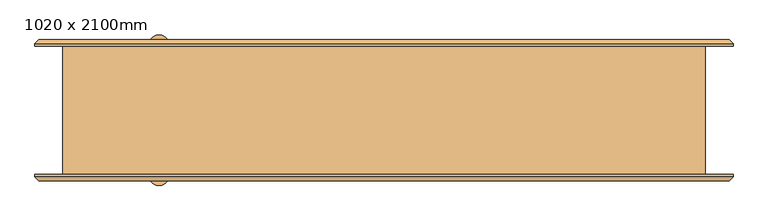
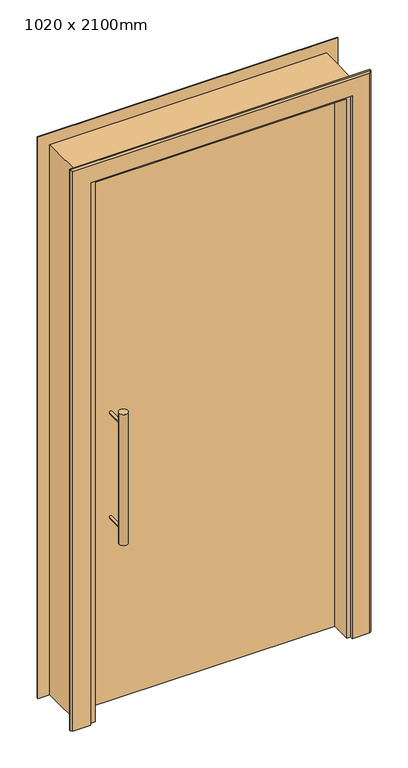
"""IFC4 building model written with IfcOpenShell, lengths in millimetres: door geometry, Porta pivotante simples com revestimento : 1020 x 2100mm."""

from ifc_helpers import new_model, si_unit, point, frame, frame_2d, origin, origin_with_axes, place, context, project, spatial, polyline, circle_curve, trimmed, segment, composite_curve, outline, extrude, faceted_brep, source, transform, mapped, element, save


def door_1020_x_2100mm_d07cee32(model_context):
    return source(origin(), model_context, "Body", "SolidModel", [
        extrude(outline(composite_curve([segment(trimmed(circle_curve(frame_2d((-350.0, -102.5)), 15.0), [point((-365.0, -102.5))], [point((-335.0, -102.5))], False, "CARTESIAN"), True, "CONTINUOUS"), segment(trimmed(circle_curve(frame_2d((-350.0, -102.5)), 15.0), [point((-335.0, -102.5))], [point((-365.0, -102.5))], False, "CARTESIAN"), True, "CONTINUOUS")], self_intersect=False)), frame((0.0, 0.0, 650.0), z_axis=(0.0, 0.0, 1.0), x_axis=(1.0, 0.0, 0.0)), (0.0, 0.0, 1.0), 500.0),
        extrude(outline(composite_curve([segment(trimmed(circle_curve(frame_2d((1100.0, -350.0)), 5.0), [point((1100.0, -355.0))], [point((1100.0, -345.0))], False, "CARTESIAN"), True, "CONTINUOUS"), segment(trimmed(circle_curve(frame_2d((1100.0, -350.0)), 5.0), [point((1100.0, -345.0))], [point((1100.0, -355.0))], False, "CARTESIAN"), True, "CONTINUOUS")], self_intersect=False)), frame((0.0, -102.5, 0.0), z_axis=(0.0, 1.0, 0.0), x_axis=(0.0, 0.0, 1.0)), (0.0, 0.0, 1.0), 80.0),
        extrude(outline(composite_curve([segment(trimmed(circle_curve(frame_2d((700.0, -350.0)), 5.0), [point((700.0, -355.0))], [point((700.0, -345.0))], False, "CARTESIAN"), True, "CONTINUOUS"), segment(trimmed(circle_curve(frame_2d((700.0, -350.0)), 5.0), [point((700.0, -345.0))], [point((700.0, -355.0))], False, "CARTESIAN"), True, "CONTINUOUS")], self_intersect=False)), frame((0.0, -102.5, 0.0), z_axis=(0.0, 1.0, 0.0), x_axis=(0.0, 0.0, 1.0)), (0.0, 0.0, 1.0), 80.0),
        extrude(outline(composite_curve([segment(trimmed(circle_curve(frame_2d((1100.0, -350.0)), 5.0), [point((1100.0, -355.0))], [point((1100.0, -345.0))], False, "CARTESIAN"), True, "CONTINUOUS"), segment(trimmed(circle_curve(frame_2d((1100.0, -350.0)), 5.0), [point((1100.0, -345.0))], [point((1100.0, -355.0))], False, "CARTESIAN"), True, "CONTINUOUS")], self_intersect=False)), frame((0.0, 22.5, 0.0), z_axis=(0.0, 1.0, 0.0), x_axis=(0.0, 0.0, 1.0)), (0.0, 0.0, 1.0), 80.0),
        extrude(outline(composite_curve([segment(trimmed(circle_curve(frame_2d((700.0, -350.0)), 5.0), [point((700.0, -355.0))], [point((700.0, -345.0))], False, "CARTESIAN"), True, "CONTINUOUS"), segment(trimmed(circle_curve(frame_2d((700.0, -350.0)), 5.0), [point((700.0, -345.0))], [point((700.0, -355.0))], False, "CARTESIAN"), True, "CONTINUOUS")], self_intersect=False)), frame((0.0, 22.5, 0.0), z_axis=(0.0, 1.0, 0.0), x_axis=(0.0, 0.0, 1.0)), (0.0, 0.0, 1.0), 80.0),
        extrude(outline(composite_curve([segment(trimmed(circle_curve(frame_2d((-350.0, 102.5)), 15.0), [point((-365.0, 102.5))], [point((-335.0, 102.5))], False, "CARTESIAN"), True, "CONTINUOUS"), segment(trimmed(circle_curve(frame_2d((-350.0, 102.5)), 15.0), [point((-335.0, 102.5))], [point((-365.0, 102.5))], False, "CARTESIAN"), True, "CONTINUOUS")], self_intersect=False)), frame((0.0, 0.0, 650.0), z_axis=(0.0, 0.0, 1.0), x_axis=(1.0, 0.0, 0.0)), (0.0, 0.0, 1.0), 500.0),
        extrude(outline(polyline([(460.0, -22.5), (-460.0, -22.5), (-460.0, 22.5), (460.0, 22.5), (460.0, -22.5)])), origin_with_axes(), (0.0, 0.0, 1.0), 2060.0),
        faceted_brep([(-543.0, -104.0, 0.0), (-543.0, -100.0, 0.0), (-473.0, -100.0, 0.0), (-473.0, -110.0, 0.0), (-537.0, -110.0, 0.0), (-537.0, -110.0, 2137.0), (-543.0, -104.0, 2143.0), (-473.0, -110.0, 2073.0), (473.0, -110.0, 2073.0), (473.0, -110.0, 0.0), (537.0, -110.0, 0.0), (537.0, -110.0, 2137.0), (-473.0, -100.0, 2073.0), (-543.0, -100.0, 2143.0), (543.0, -100.0, 2143.0), (543.0, -100.0, 0.0), (473.0, -100.0, 0.0), (473.0, -100.0, 2073.0), (543.0, -104.0, 0.0), (543.0, -104.0, 2143.0)], [[[0, 1, 2, 3, 4]], [[4, 5, 6, 0]], [[3, 7, 8, 9, 10, 11, 5, 4]], [[2, 12, 7, 3]], [[1, 13, 14, 15, 16, 17, 12, 2]], [[0, 6, 13, 1]], [[11, 10, 18, 19]], [[18, 10, 9, 16, 15]], [[17, 16, 9, 8]], [[19, 18, 15, 14]], [[5, 11, 19, 6]], [[12, 17, 8, 7]], [[6, 19, 14, 13]]]),
        faceted_brep([(543.0, 104.0, 0.0), (543.0, 100.0, 0.0), (473.0, 100.0, 0.0), (473.0, 110.0, 0.0), (537.0, 110.0, 0.0), (537.0, 110.0, 2137.0), (543.0, 104.0, 2143.0), (473.0, 110.0, 2073.0), (-473.0, 110.0, 2073.0), (-473.0, 110.0, 0.0), (-537.0, 110.0, 0.0), (-537.0, 110.0, 2137.0), (473.0, 100.0, 2073.0), (543.0, 100.0, 2143.0), (-543.0, 100.0, 2143.0), (-543.0, 100.0, 0.0), (-473.0, 100.0, 0.0), (-473.0, 100.0, 2073.0), (-543.0, 104.0, 0.0), (-543.0, 104.0, 2143.0)], [[[0, 1, 2, 3, 4]], [[4, 5, 6, 0]], [[3, 7, 8, 9, 10, 11, 5, 4]], [[2, 12, 7, 3]], [[1, 13, 14, 15, 16, 17, 12, 2]], [[0, 6, 13, 1]], [[11, 10, 18, 19]], [[18, 10, 9, 16, 15]], [[17, 16, 9, 8]], [[19, 18, 15, 14]], [[5, 11, 19, 6]], [[12, 17, 8, 7]], [[6, 19, 14, 13]]]),
        faceted_brep([(500.0, -100.0, 2100.0), (500.0, -100.0, 0.0), (500.0, 100.0, 0.0), (500.0, 100.0, 2100.0), (-500.0, 100.0, 2100.0), (450.0, 100.0, 0.0), (450.0, 100.0, 2060.0), (-460.0, 100.0, 2060.0), (-460.0, 100.0, 0.0), (-500.0, 100.0, 0.0), (460.0, -100.0, 0.0), (460.0, 22.5, 0.0), (450.0, 22.5, 0.0), (-500.0, -100.0, 0.0), (-450.0, -100.0, 0.0), (-450.0, -100.0, 2060.0), (460.0, -100.0, 2060.0), (-500.0, -100.0, 2100.0), (-460.0, -22.5, 0.0), (-450.0, -22.5, 0.0), (-460.0, -22.5, 2060.0), (450.0, 22.5, 2060.0), (460.0, 22.5, 2060.0), (-450.0, -22.5, 2060.0)], [[[0, 1, 2, 3]], [[4, 3, 2, 5, 6, 7, 8, 9]], [[10, 11, 12, 5, 2, 1]], [[13, 14, 15, 16, 10, 1, 0, 17]], [[4, 9, 13, 17]], [[13, 9, 8, 18, 19, 14]], [[8, 7, 20, 18]], [[12, 21, 6, 5]], [[10, 16, 22, 11]], [[19, 23, 15, 14]], [[11, 22, 21, 12]], [[18, 20, 23, 19]], [[21, 22, 16, 15, 23, 20, 7, 6]], [[3, 4, 17, 0]]]),
    ])


if __name__ == "__main__":
    model = new_model("IFC4")
    model_context = context("Model", 3, world=origin())
    ifc_project = project(units=[si_unit("LENGTHUNIT", "METRE", prefix="MILLI")], contexts=[model_context])
    site = spatial("IfcSite", under=ifc_project)
    building = spatial("IfcBuilding", under=site)
    placement = place(None, origin())
    door_1020_x_2100mm_shape = door_1020_x_2100mm_d07cee32(model_context)
    element("IfcDoor", 1, ObjectType="Porta pivotante simples com revestimento : 1020 x 2100mm", at=placement, inside=building, context=model_context, shape_type="MappedRepresentation", body=[
        mapped(door_1020_x_2100mm_shape, transform((0.0, 0.0, 0.0), x_axis=(1.0, 0.0, 0.0), y_axis=(0.0, 1.0, 0.0), z_axis=(0.0, 0.0, 1.0))),
    ])
    save(model, "model.ifc")
